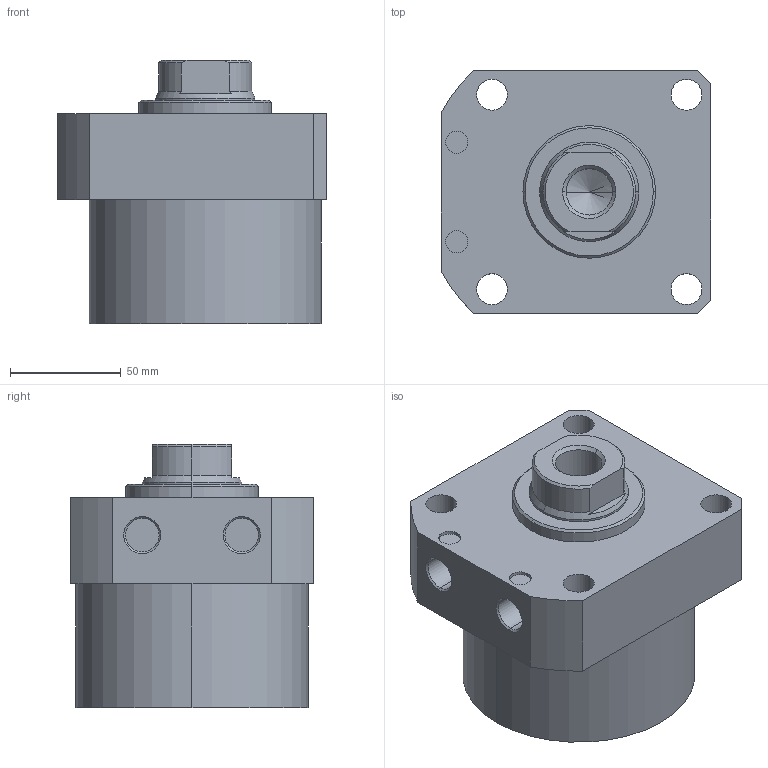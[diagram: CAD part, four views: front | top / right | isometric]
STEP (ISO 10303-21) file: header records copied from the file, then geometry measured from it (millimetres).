
FILE_DESCRIPTION (( 'STEP AP203' ), '1' );
FILE_NAME ('CLLR-105CA-035.STEP', '2019-12-19T01:30:02', ( '' ), ( '' ), 'SwSTEP 2.0', 'SolidWorks 2015', '' );
FILE_SCHEMA (( 'CONFIG_CONTROL_DESIGN' ));
Length unit declared in the file: millimetre
Products named in the file (1): CLLR-105CA-035
Bounding box: 122 x 110 x 119 mm (x, y, z)
Volume: 987412.5 mm3; surface area: 76250.3 mm2
Topology: 1 solids, 1 shells, 63 faces, 148 edges, 93 vertices
Faces by surface type: cylinder 29, plane 19, cone 15
Entity records: 1909 total; most frequent: DIRECTION 338, CARTESIAN_POINT 327, ORIENTED_EDGE 292, EDGE_CURVE 146, AXIS2_PLACEMENT_3D 136, VERTEX_POINT 93, EDGE_LOOP 79, CIRCLE 72
